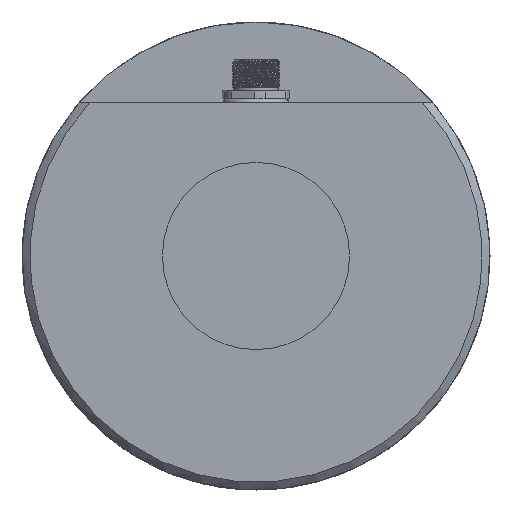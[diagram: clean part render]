
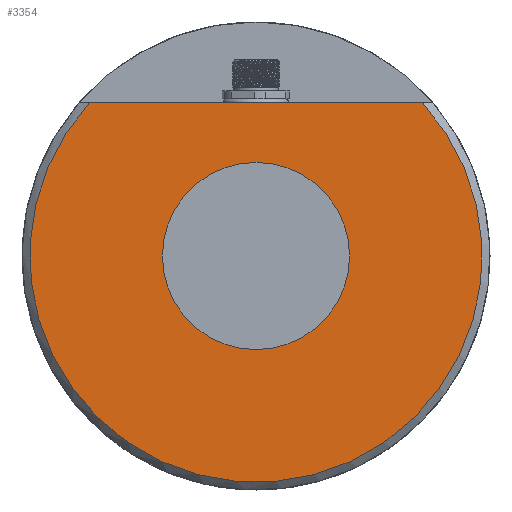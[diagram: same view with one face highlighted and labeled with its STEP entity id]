
A CAD part, left-side view. The second image highlights one B-rep face of the part: STEP entity #3354.
In plain terms, the highlighted planar face has unit normal (-1, 0, 0).
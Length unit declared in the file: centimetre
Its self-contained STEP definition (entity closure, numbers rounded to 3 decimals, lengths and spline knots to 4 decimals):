
#677=VECTOR('',#16340,1.);
#817=LINE('',#3976,#677);
#960=PLANE('',#3591);
#1201=CIRCLE('',#3574,2.4);
#1203=CIRCLE('',#3580,5.8);
#1324=EDGE_CURVE('',#2843,#2843,#1201,.T.);
#1328=EDGE_CURVE('',#2846,#2845,#1203,.T.);
#1334=EDGE_CURVE('',#2846,#2845,#817,.T.);
#1787=ORIENTED_EDGE('',*,*,#1324,.T.);
#1788=ORIENTED_EDGE('',*,*,#1328,.F.);
#1789=ORIENTED_EDGE('',*,*,#1334,.T.);
#2576=EDGE_LOOP('',(#1787));
#2577=EDGE_LOOP('',(#1788,#1789));
#2843=VERTEX_POINT('',#3945);
#2845=VERTEX_POINT('',#3955);
#2846=VERTEX_POINT('',#3959);
#3109=FACE_BOUND('',#2576,.T.);
#3110=FACE_BOUND('',#2577,.T.);
#3354=ADVANCED_FACE('',(#3109,#3110),#960,.T.);
#3574=AXIS2_PLACEMENT_3D('',#3944,#16311,#16312);
#3580=AXIS2_PLACEMENT_3D('',#3960,#16321,#16322);
#3591=AXIS2_PLACEMENT_3D('',#3977,#16341,$);
#3944=CARTESIAN_POINT('',(0.,0.,0.));
#3945=CARTESIAN_POINT('',(0.,0.,2.4));
#3955=CARTESIAN_POINT('',(0.,4.2636,3.9321));
#3959=CARTESIAN_POINT('',(0.,-4.2636,3.9321));
#3960=CARTESIAN_POINT('',(0.,0.,0.));
#3976=CARTESIAN_POINT('',(0.,2.775,3.9321));
#3977=CARTESIAN_POINT('',(0.,0.,-3.));
#16311=DIRECTION('',(1.,0.,0.));
#16312=DIRECTION('',(0.,0.,2.4));
#16321=DIRECTION('',(1.,0.,0.));
#16322=DIRECTION('',(0.,0.,-5.8));
#16340=DIRECTION('',(0.,1.,0.));
#16341=DIRECTION('',(-1.,0.,0.));
